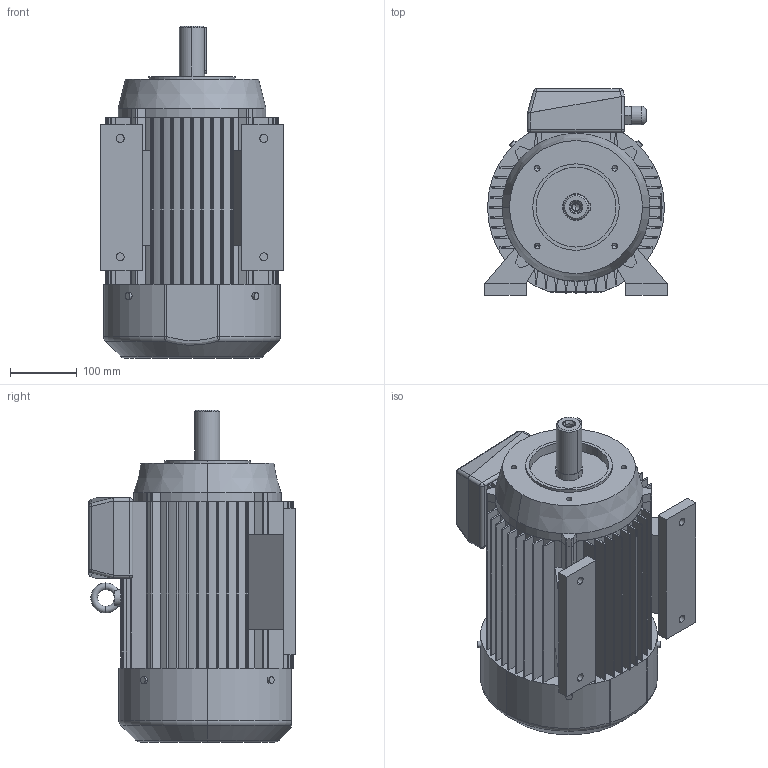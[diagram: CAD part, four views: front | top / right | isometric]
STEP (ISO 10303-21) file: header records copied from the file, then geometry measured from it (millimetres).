
FILE_DESCRIPTION (( 'STEP AP203' ), '1' );
FILE_NAME ('2SIEL132M4,6A,6B-B34-C2.STEP', '2013-01-07T13:24:03', ( 'INDUKTA' ), ( 'CANTONI MOTOR' ), 'SwSTEP 2.0', 'SolidWorks 2003064', '' );
FILE_SCHEMA (( 'CONFIG_CONTROL_DESIGN' ));
Length unit declared in the file: millimetre
Products named in the file (1): 2SIEL132M4,6A,6B-B34-C2
Bounding box: 274 x 310 x 499 mm (x, y, z)
Volume: 20543545.7 mm3; surface area: 1106408.2 mm2
Topology: 14 solids, 14 shells, 427 faces, 1120 edges, 703 vertices
Faces by surface type: cylinder 194, plane 187, cone 22, torus 13, sphere 10, bspline 1
Entity records: 13858 total; most frequent: CARTESIAN_POINT 3097, DIRECTION 2338, ORIENTED_EDGE 2200, EDGE_CURVE 1100, AXIS2_PLACEMENT_3D 848, VERTEX_POINT 703, LINE 642, VECTOR 642
